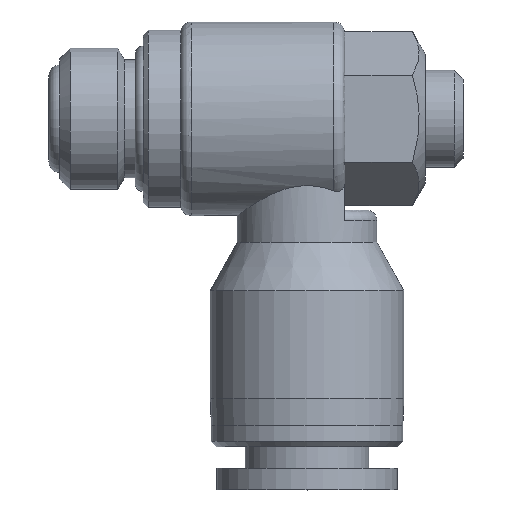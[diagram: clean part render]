
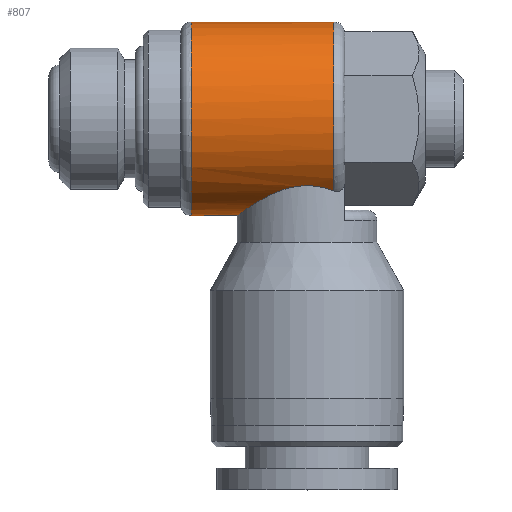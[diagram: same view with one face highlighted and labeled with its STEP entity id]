
A CAD part, top view. The second image highlights one B-rep face of the part: STEP entity #807.
In plain terms, the highlighted cylindrical face has radius 9 mm (diameter 18 mm), a full revolution.
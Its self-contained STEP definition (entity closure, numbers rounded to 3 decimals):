
#66=B_SPLINE_CURVE_WITH_KNOTS('',3,(#1273,#1274,#1275,#1276,#1277,#1278,
#1279,#1280,#1281,#1282,#1283,#1284,#1285,#1286,#1287,#1288,#1289,#1290,
#1291,#1292,#1293,#1294,#1295),.UNSPECIFIED.,.F.,.F.,(4,2,2,2,2,2,2,2,2,
3,4),(-2.317,-2.061,-1.801,-1.541,
-1.286,-1.03,-0.775,-0.52,
-0.26,0.,0.256),.UNSPECIFIED.);
#117=CYLINDRICAL_SURFACE('',#886,9.);
#143=FACE_BOUND('',#259,.T.);
#184=FACE_OUTER_BOUND('',#258,.T.);
#258=EDGE_LOOP('',(#588,#589));
#259=EDGE_LOOP('',(#590));
#351=CIRCLE('',#885,9.);
#352=CIRCLE('',#887,9.);
#403=VERTEX_POINT('',#1267);
#404=VERTEX_POINT('',#1270);
#405=VERTEX_POINT('',#1271);
#481=EDGE_CURVE('',#403,#403,#351,.T.);
#482=EDGE_CURVE('',#404,#405,#352,.T.);
#483=EDGE_CURVE('',#405,#404,#66,.T.);
#588=ORIENTED_EDGE('',*,*,#482,.F.);
#589=ORIENTED_EDGE('',*,*,#483,.F.);
#590=ORIENTED_EDGE('',*,*,#481,.F.);
#807=ADVANCED_FACE('',(#184,#143),#117,.T.);
#885=AXIS2_PLACEMENT_3D('',#1268,#1027,#1028);
#886=AXIS2_PLACEMENT_3D('',#1269,#1029,#1030);
#887=AXIS2_PLACEMENT_3D('',#1272,#1031,#1032);
#1027=DIRECTION('center_axis',(-1.,0.,0.));
#1028=DIRECTION('ref_axis',(0.,1.,0.));
#1029=DIRECTION('center_axis',(1.,0.,0.));
#1030=DIRECTION('ref_axis',(0.,1.,0.));
#1031=DIRECTION('center_axis',(1.,0.,0.));
#1032=DIRECTION('ref_axis',(0.,1.,0.));
#1267=CARTESIAN_POINT('',(-10.782,-9.,0.));
#1268=CARTESIAN_POINT('Origin',(-10.782,0.,0.));
#1269=CARTESIAN_POINT('Origin',(-4.125,0.,0.));
#1270=CARTESIAN_POINT('',(2.5,-6.708,-6.));
#1271=CARTESIAN_POINT('',(2.5,-6.708,6.));
#1272=CARTESIAN_POINT('Origin',(2.5,0.,0.));
#1273=CARTESIAN_POINT('Ctrl Pts',(2.5,-6.708,6.));
#1274=CARTESIAN_POINT('Ctrl Pts',(1.719,-6.417,6.326));
#1275=CARTESIAN_POINT('Ctrl Pts',(0.854,-6.225,6.5));
#1276=CARTESIAN_POINT('Ctrl Pts',(-0.866,-6.225,6.5));
#1277=CARTESIAN_POINT('Ctrl Pts',(-1.743,-6.423,6.32));
#1278=CARTESIAN_POINT('Ctrl Pts',(-3.324,-7.019,5.651));
#1279=CARTESIAN_POINT('Ctrl Pts',(-4.032,-7.403,5.161));
#1280=CARTESIAN_POINT('Ctrl Pts',(-5.151,-8.068,4.041));
#1281=CARTESIAN_POINT('Ctrl Pts',(-5.648,-8.402,3.332));
#1282=CARTESIAN_POINT('Ctrl Pts',(-6.323,-8.87,1.738));
#1283=CARTESIAN_POINT('Ctrl Pts',(-6.5,-9.,0.851));
#1284=CARTESIAN_POINT('Ctrl Pts',(-6.5,-9.,-0.851));
#1285=CARTESIAN_POINT('Ctrl Pts',(-6.323,-8.87,-1.738));
#1286=CARTESIAN_POINT('Ctrl Pts',(-5.648,-8.402,-3.332));
#1287=CARTESIAN_POINT('Ctrl Pts',(-5.151,-8.068,-4.041));
#1288=CARTESIAN_POINT('Ctrl Pts',(-4.032,-7.403,-5.161));
#1289=CARTESIAN_POINT('Ctrl Pts',(-3.324,-7.019,-5.651));
#1290=CARTESIAN_POINT('Ctrl Pts',(-1.743,-6.423,-6.32));
#1291=CARTESIAN_POINT('Ctrl Pts',(-0.866,-6.225,-6.5));
#1292=CARTESIAN_POINT('Ctrl Pts',(0.,-6.225,-6.5));
#1293=CARTESIAN_POINT('Ctrl Pts',(0.854,-6.225,-6.5));
#1294=CARTESIAN_POINT('Ctrl Pts',(1.719,-6.417,-6.326));
#1295=CARTESIAN_POINT('Ctrl Pts',(2.5,-6.708,-6.));
